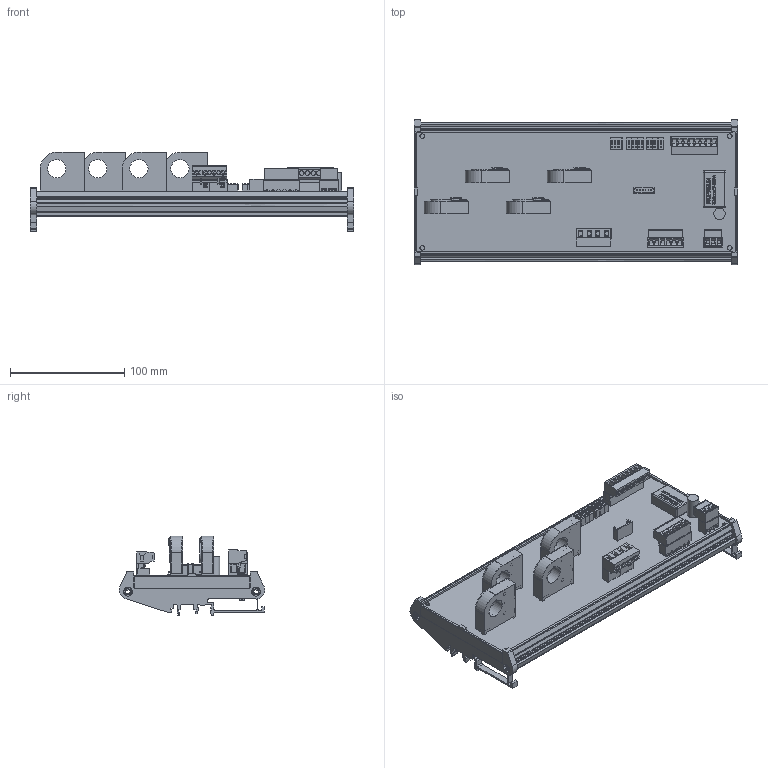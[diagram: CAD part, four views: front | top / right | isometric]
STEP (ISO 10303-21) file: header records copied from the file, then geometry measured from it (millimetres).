
FILE_DESCRIPTION(('FreeCAD Model'),'2;1');
FILE_NAME('C:/3D Files/Stringhe/ST0HS/ST0HS04x00/ST0HS04x00.step', '2022-06-01T16:38:58',('Author'),(''), 'Open CASCADE STEP processor 7.3','FreeCAD','Unknown');
FILE_SCHEMA(('AUTOMOTIVE_DESIGN { 1 0 10303 214 1 1 1 1 }'));
Length unit declared in the file: millimetre
Products named in the file (24): ST0HS04x00; AmpModu_6P_M; DipSwitch4; WRB2403ZP-6WR003; ELNA_470_uF_35_V; Mstb_03P_F; Mstb_03Pc_M; SH04-7,62; PV02-7,62-V-Pa; PV02-7,62-V-Pb; Mstb_8P_F; Mstb_8Pc_M; Hall_Sensor_45_A_CH_1; Hall_Sensor_45_A_CH_2; Hall_Sensor_45_A_CH_3; Hall_Sensor_45_A_CH_4; Stampato_279,7_x_108; Profilo_284x128; DipSwitch005; DipSwitch006; DipSwitch007; DipSwitch008; Mstb_06Pc_M; Mstb_06P_F
Assembly tree (23 placements, depth 2):
  ST0HS04x00
    AmpModu_6P_M
    DipSwitch4
    WRB2403ZP-6WR003
    ELNA_470_uF_35_V
    Mstb_03P_F
    Mstb_03Pc_M
    SH04-7,62
    PV02-7,62-V-Pa
    PV02-7,62-V-Pb
    Mstb_8P_F
    Mstb_8Pc_M
    Hall_Sensor_45_A_CH_1
    Hall_Sensor_45_A_CH_2
    Hall_Sensor_45_A_CH_3
    Hall_Sensor_45_A_CH_4
    Stampato_279,7_x_108
    Profilo_284x128
    DipSwitch005
    DipSwitch006
    DipSwitch007
    DipSwitch008
    Mstb_06Pc_M
    Mstb_06P_F
Bounding box: 284 x 127.59 x 69.79 mm (x, y, z)
Volume: 211067.7 mm3; surface area: 272833.5 mm2
Topology: 31 solids, 52 shells, 4147 faces, 11749 edges, 9588 vertices
Faces by surface type: plane 3256, cylinder 560, bspline 185, cone 59, torus 56, sphere 28, extrusion 3
Full cylindrical faces by diameter (mm): 0.75 x52, 1 x10, 1.5 x8, 1.6 x13, 3.8 x4, 4 x25, 4.3 x2, 7.9 x4, 9.202 x2, 10 x1
Entity records: 314140 total; most frequent: CARTESIAN_POINT 64382, DIRECTION 39404, VECTOR 27469, LINE 27466, ORIENTED_EDGE 21902, PCURVE 21902, DEFINITIONAL_REPRESENTATION 21902, EDGE_CURVE 11157
